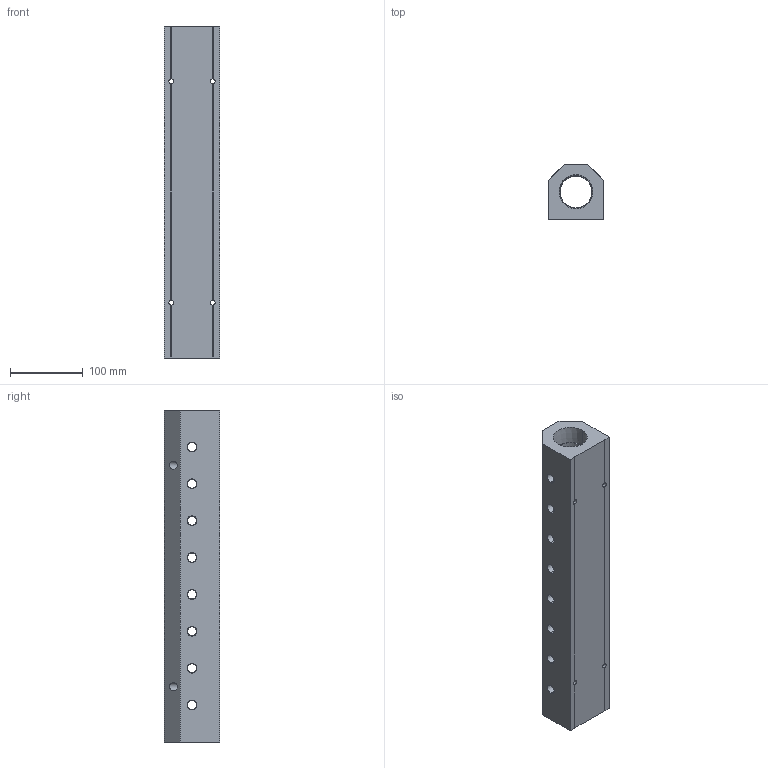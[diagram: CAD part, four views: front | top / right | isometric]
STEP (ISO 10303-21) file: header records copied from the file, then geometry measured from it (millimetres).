
FILE_DESCRIPTION (( 'STEP AP214' ), '1' );
FILE_NAME ('ALM8ACE-N4N24-457R.step', '2022-02-07T07:39:55', ( '' ), ( '' ), 'SwSTEP 2.0', 'SolidWorks 2020', '' );
FILE_SCHEMA (( 'AUTOMOTIVE_DESIGN' ));
Length unit declared in the file: millimetre
Products named in the file (1): ALM8ACE-N4N24-457R
Bounding box: 76.2 x 76.2 x 457 mm (x, y, z)
Volume: 1653262.8 mm3; surface area: 213587.4 mm2
Topology: 1 solids, 1 shells, 356 faces, 968 edges, 632 vertices
Faces by surface type: plane 237, cone 52, bspline 49, cylinder 18
Entity records: 19849 total; most frequent: CARTESIAN_POINT 7750, ORIENTED_EDGE 1936, DIRECTION 1506, EDGE_CURVE 968, LINE 722, VECTOR 722, VERTEX_POINT 632, EDGE_LOOP 432
